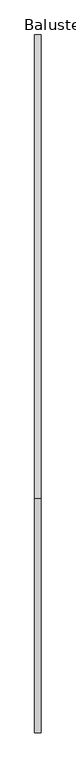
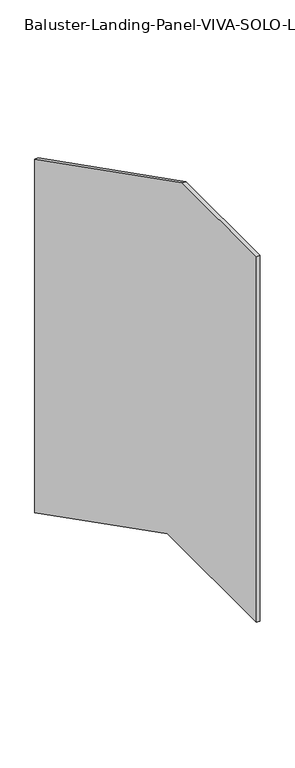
"""IFC4 building model written with IfcOpenShell, lengths in millimetres: railing geometry, Baluster-Landing-Panel-VIVA-SOLO-Lower : Standard_Glass."""

import ifcopenshell
import ifcopenshell.guid

model = None  # the IFC model being written
_history = None  # IfcOwnerHistory: only IFC2X3 demands one
_inside = {}  # id of a spatial element -> (the spatial element, [elements in it])
_under = {}  # id of a project, library or spatial element -> (it, [spatial elements below it])
_declared = {}  # id of a project -> (the project, [libraries it declares])
_typed = {}  # id of a type object -> (the type object, [elements of that type])
_made_of = {}  # id of a material, layer set ... -> (it, [elements and type objects made of it])


def new_model(schema):
    """Start an empty IFC model of exactly this schema.

    Asked for "IFC4X3", IfcOpenShell would pick the latest addendum, in which some entities
    have other attributes; the version numbers below select the first issue.
    IFC2X3 requires an IfcOwnerHistory on every rooted entity: one is made here for all.
    """
    global model, _history
    if schema == "IFC4X3":
        model = ifcopenshell.file(schema_version=(4, 3, 0, 0))
    else:
        model = ifcopenshell.file(schema=schema)
    _inside.clear()
    _under.clear()
    _declared.clear()
    _typed.clear()
    _made_of.clear()
    _history = None
    if model.schema == "IFC2X3":
        org = make("IfcOrganization", Name="unknown")
        user = make(
            "IfcPersonAndOrganization",
            ThePerson=make("IfcPerson", FamilyName="unknown"),
            TheOrganization=org,
        )
        app = make(
            "IfcApplication",
            ApplicationDeveloper=org,
            Version="unknown",
            ApplicationFullName="unknown",
            ApplicationIdentifier="unknown",
        )
        _history = make(
            "IfcOwnerHistory",
            OwningUser=user,
            OwningApplication=app,
            ChangeAction="ADDED",
            CreationDate=0,
        )
    return model


def make(cls, **values):
    """One entity of the class cls with the attributes given. An attribute that is None is left unset."""
    return model.create_entity(
        cls, **{name: value for name, value in values.items() if value is not None}
    )


def rooted(cls, **values):
    """An entity with a GlobalId (a new one), such as an element, a storey or a relation."""
    return make(cls, GlobalId=ifcopenshell.guid.new(), OwnerHistory=_history, **values)


def si_unit(unit_type, name, prefix=None):
    """IfcSIUnit, for example si_unit("LENGTHUNIT", "METRE", prefix="MILLI")."""
    return make("IfcSIUnit", UnitType=unit_type, Prefix=prefix, Name=name)


def assignment(units):
    """IfcUnitAssignment: the units of a project."""
    return None if units is None else make("IfcUnitAssignment", Units=units)


def point(xyz):
    """IfcCartesianPoint."""
    return None if xyz is None else make("IfcCartesianPoint", Coordinates=xyz)


def direction(xyz):
    """IfcDirection."""
    return None if xyz is None else make("IfcDirection", DirectionRatios=xyz)


def frame(location, z_axis=None, x_axis=None):
    """IfcAxis2Placement3D, a coordinate frame: its origin and axes. An axis left out is left unset."""
    return make(
        "IfcAxis2Placement3D",
        Location=point(location),
        Axis=direction(z_axis),
        RefDirection=direction(x_axis),
    )


def origin():
    """The frame at (0, 0, 0) with its axes left unset."""
    return frame((0.0, 0.0, 0.0))


def place(relative_to, where):
    """IfcLocalPlacement: puts the frame where relative to a parent placement (None: the world)."""
    return make(
        "IfcLocalPlacement", PlacementRelTo=relative_to, RelativePlacement=where
    )


def context(
    kind, dimensions, precision=None, world=None, true_north=None, identifier=None
):
    """IfcGeometricRepresentationContext, for example the 3D "Model" context."""
    return make(
        "IfcGeometricRepresentationContext",
        ContextIdentifier=identifier,
        ContextType=kind,
        CoordinateSpaceDimension=dimensions,
        Precision=precision,
        WorldCoordinateSystem=world,
        TrueNorth=true_north,
    )


def project(units=None, contexts=None):
    """IfcProject with its units and contexts."""
    return rooted(
        "IfcProject",
        Name="project",
        RepresentationContexts=contexts,
        UnitsInContext=assignment(units),
    )


def spatial(cls, under=None, at=None, **own):
    """A site, building, storey or space (cls), placed at a placement, below another one or the project."""
    s = rooted(cls, ObjectPlacement=at, **own)
    if under is not None:
        _under.setdefault(under.id(), (under, []))[1].append(s)
    return s


def polyline(points):
    """IfcPolyline through the points."""
    return make("IfcPolyline", Points=[point(p) for p in points])


def outline(outer, holes=None, kind="AREA"):
    """IfcArbitraryClosedProfileDef: a profile drawn as a closed curve; with holes, ...WithVoids."""
    if holes is None:
        return make("IfcArbitraryClosedProfileDef", ProfileType=kind, OuterCurve=outer)
    return make(
        "IfcArbitraryProfileDefWithVoids",
        ProfileType=kind,
        OuterCurve=outer,
        InnerCurves=holes,
    )


def extrude(swept, where, along, depth):
    """IfcExtrudedAreaSolid: the profile swept, set in the frame where, extruded along a direction by depth."""
    return make(
        "IfcExtrudedAreaSolid",
        SweptArea=swept,
        Position=where,
        ExtrudedDirection=direction(along),
        Depth=depth,
    )


def shape(context_of_items, identifier, shape_type, items):
    """IfcShapeRepresentation: the items that make up one representation, for example the "Body"."""
    return make(
        "IfcShapeRepresentation",
        ContextOfItems=context_of_items,
        RepresentationIdentifier=identifier,
        RepresentationType=shape_type,
        Items=items,
    )


def source(mapping_origin, context_of_items, identifier, shape_type, items):
    """IfcRepresentationMap: a shape defined once, which mapped items show again and again."""
    return make(
        "IfcRepresentationMap",
        MappingOrigin=mapping_origin,
        MappedRepresentation=shape(context_of_items, identifier, shape_type, items),
    )


def transform(
    local_origin,
    x_axis=None,
    y_axis=None,
    z_axis=None,
    scale=None,
    scale2=None,
    scale3=None,
    uniform=True,
):
    """IfcCartesianTransformationOperator3D, or its non-uniform kind. x_axis, y_axis, z_axis: its Axis1, 2, 3."""
    if uniform:
        return make(
            "IfcCartesianTransformationOperator3D",
            Axis1=direction(x_axis),
            Axis2=direction(y_axis),
            LocalOrigin=point(local_origin),
            Scale=scale,
            Axis3=direction(z_axis),
        )
    return make(
        "IfcCartesianTransformationOperator3DnonUniform",
        Axis1=direction(x_axis),
        Axis2=direction(y_axis),
        LocalOrigin=point(local_origin),
        Scale=scale,
        Axis3=direction(z_axis),
        Scale2=scale2,
        Scale3=scale3,
    )


def mapped(mapping_source, mapping_target):
    """IfcMappedItem: shows the shape of a source again, moved by a transform."""
    return make(
        "IfcMappedItem", MappingSource=mapping_source, MappingTarget=mapping_target
    )


def made_of(thing, what):
    """Note that an element or type object is made of a material, layer set ...; save() writes the relation."""
    if what is not None:
        _made_of.setdefault(what.id(), (what, []))[1].append(thing)
    return thing


def element(
    cls,
    number,
    at=None,
    inside=None,
    cuts=None,
    type_object=None,
    material=None,
    context=None,
    identifier="Body",
    shape_type=None,
    held_by="IfcProductDefinitionShape",
    body=None,
    shapes=None,
    **own,
):
    """One element of the class cls, such as IfcWall. Its Tag is "e" and its number.

    at: its placement. inside: the storey or other place that contains it. cuts: it is an
    opening in that element (IfcRelVoidsElement). A single representation is given by context,
    identifier, shape_type and body (its items); several are given by shapes. held_by: the class
    of the entity that holds the representations. save() writes the other relations.
    """
    e = rooted(cls, Tag="e%d" % number, ObjectPlacement=at, **own)
    if body is not None:
        shapes = [shape(context, identifier, shape_type, body)]
    if shapes is not None:
        e.Representation = make(held_by, Representations=shapes)
    if inside is not None:
        _inside.setdefault(inside.id(), (inside, []))[1].append(e)
    if cuts is not None:
        rooted(
            "IfcRelVoidsElement", RelatingBuildingElement=cuts, RelatedOpeningElement=e
        )
    if type_object is not None:
        _typed.setdefault(type_object.id(), (type_object, []))[1].append(e)
    return made_of(e, material)


def aggregate(whole, parts):
    """IfcRelAggregates: a whole, such as a stair, and the parts it consists of."""
    return rooted("IfcRelAggregates", RelatingObject=whole, RelatedObjects=parts)


def save(model, path):
    """Write the relations noted so far, then the file.

    IfcRelAggregates (storeys below a building ...), IfcRelContainedInSpatialStructure (elements
    in a storey), IfcRelDefinesByType, IfcRelAssociatesMaterial and IfcRelDeclares: one each for
    every whole, place, type object, material and project.
    """
    for whole, parts in _under.values():
        aggregate(whole, parts)
    for where, things in _inside.values():
        rooted(
            "IfcRelContainedInSpatialStructure",
            RelatedElements=things,
            RelatingStructure=where,
        )
    for kind, things in _typed.values():
        rooted("IfcRelDefinesByType", RelatedObjects=things, RelatingType=kind)
    for what, things in _made_of.values():
        rooted("IfcRelAssociatesMaterial", RelatedObjects=things, RelatingMaterial=what)
    for by, libraries in _declared.values():
        rooted("IfcRelDeclares", RelatingContext=by, RelatedDefinitions=libraries)
    model.write(path)


def baluster_landing_panel_viva_solo_lower_standard_glass_98f4e7d3(model_context):
    return source(origin(), model_context, "Body", "SweptSolid", [
        extrude(outline(polyline([(-680.085, 1112.52), (5.0108793, 763.7473897), (5.0108793, -237.7228611), (-611.6294537, 76.2), (-1025.525, 76.2), (-1025.525, 1112.52), (-680.085, 1112.52)])), frame((33.3375, 0.0, 0.0), z_axis=(1.0, 0.0, 0.0), x_axis=(0.0, 1.0, 0.0)), (0.0, 0.0, 1.0), 9.525),
    ])


if __name__ == "__main__":
    model = new_model("IFC4")
    model_context = context("Model", 3, world=origin())
    ifc_project = project(units=[si_unit("LENGTHUNIT", "METRE", prefix="MILLI")], contexts=[model_context])
    site = spatial("IfcSite", under=ifc_project)
    building = spatial("IfcBuilding", under=site)
    placement = place(None, origin())
    baluster_landing_panel_viva_solo_lower_standard_glass_shape = baluster_landing_panel_viva_solo_lower_standard_glass_98f4e7d3(model_context)
    element("IfcRailing", 1, ObjectType="Baluster-Landing-Panel-VIVA-SOLO-Lower : Standard_Glass", at=placement, inside=building, context=model_context, shape_type="MappedRepresentation", body=[
        mapped(baluster_landing_panel_viva_solo_lower_standard_glass_shape, transform((0.0, 0.0, 0.0), x_axis=(1.0, 0.0, 0.0), y_axis=(0.0, 1.0, 0.0), z_axis=(0.0, 0.0, 1.0))),
    ])
    save(model, "model.ifc")
